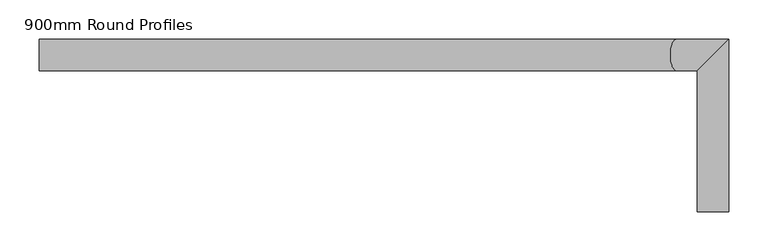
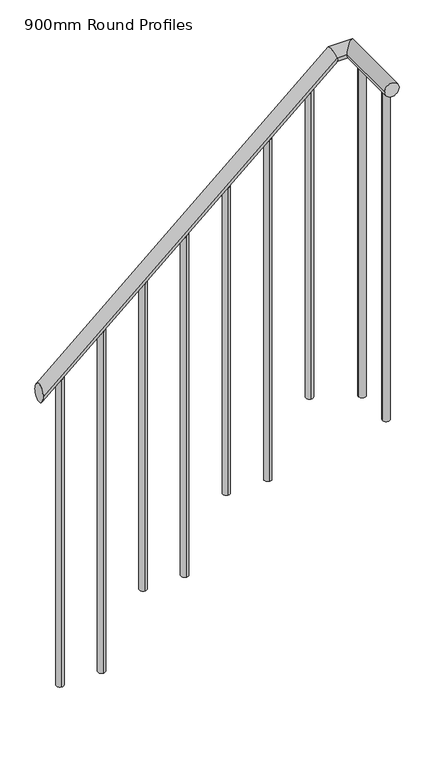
"""IFC4 building model written with IfcOpenShell, lengths in millimetres: railing geometry, 900mm Round Profiles."""

from ifc_helpers import new_model, si_unit, point, frame, frame_2d, origin, origin_with_axes, place, context, project, spatial, circle_curve, ellipse_curve, trimmed, segment, composite_curve, outline, extrude, source, transform, mapped, element, save
from ifc_brep_helpers import plane_surface, cylinder_surface, advanced_brep


def railing_900mm_round_profiles_c0c307c5(model_context):
    return source(origin(), model_context, "Body", "SolidModel", [
        advanced_brep(
        [(7110.0, 5520.0, 273.4960858), (7110.0, 5480.0, 273.4960858), (7922.4795013, 5520.0, 980.0), (7922.4795013, 5480.0, 980.0), (7990.0, 5300.0, 980.0), (7950.0, 5300.0, 980.0), (7950.0, 5480.0, 980.0), (7990.0, 5520.0, 980.0)],
        [
            (0, 1, ellipse_curve(frame((7110.0, 5500.0, 273.4960858), z_axis=(-1.0, 0.0, 0.0), x_axis=(0.0, 0.0, -1.0)), 26.5039142, 20.0)),
            (1, 0, ellipse_curve(frame((7110.0, 5500.0, 273.4960858), z_axis=(-1.0, 0.0, 0.0), x_axis=(0.0, 0.0, -1.0)), 26.5039142, 20.0)),
            (0, 2),
            (2, 3, ellipse_curve(frame((7922.4795013, 5500.0, 980.0), z_axis=(-0.9366444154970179, 0.0, -0.35028165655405), x_axis=(0.3502816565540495, 0.0, -0.9366444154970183)), 21.3528204, 20.0)),
            (3, 1),
            (3, 2, ellipse_curve(frame((7922.4795013, 5500.0, 980.0), z_axis=(-0.9366444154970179, 0.0, -0.35028165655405), x_axis=(0.3502816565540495, 0.0, -0.9366444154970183)), 21.3528204, 20.0)),
            (4, 5, circle_curve(frame((7970.0, 5300.0, 980.0), z_axis=(0.0, -1.0, 0.0), x_axis=(-1.0, 0.0, 0.0)), 20.0)),
            (5, 4, circle_curve(frame((7970.0, 5300.0, 980.0), z_axis=(0.0, -1.0, 0.0), x_axis=(-1.0, 0.0, 0.0)), 20.0)),
            (6, 7, ellipse_curve(frame((7970.0, 5500.0, 980.0), z_axis=(0.7071067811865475, -0.7071067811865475, 0.0), x_axis=(0.7071067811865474, 0.7071067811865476, 0.0)), 28.2842712, 20.0)),
            (7, 4),
            (5, 6),
            (7, 6, ellipse_curve(frame((7970.0, 5500.0, 980.0), z_axis=(0.7071067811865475, -0.7071067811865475, 0.0), x_axis=(0.7071067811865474, 0.7071067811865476, 0.0)), 28.2842712, 20.0)),
            (2, 7),
            (6, 3),
        ],
        [
            plane_surface(frame((7110.0, 5500.0, 300.0), z_axis=(-1.0, 0.0, 0.0), x_axis=(0.0, 1.0, 0.0))),
            cylinder_surface(frame((7123.1235743, 5500.0, 284.9078896), z_axis=(-0.7546055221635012, 0.0, -0.6561787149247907), x_axis=(0.0, -1.0, 0.0)), 20.0),
            plane_surface(frame((7970.0, 5300.0, 1000.0), z_axis=(0.0, -1.0, 0.0), x_axis=(0.0, 0.0, -1.0))),
            cylinder_surface(frame((7970.0, 5500.0, 980.0), z_axis=(0.0, 1.0, 0.0), x_axis=(-1.0, 0.0, 0.0)), 20.0),
            cylinder_surface(frame((7915.0, 5500.0, 980.0), z_axis=(-1.0, 0.0, 0.0), x_axis=(0.0, -1.0, 0.0)), 20.0),
        ],
        [
            (0, [[1, 2]]),
            (1, [[-1, 3, 4, 5]]),
            (1, [[-2, -5, 6, -3]]),
            (2, [[7, 8]]),
            (3, [[9, 10, -8, 11]]),
            (3, [[12, -11, -7, -10]]),
            (4, [[-4, 13, -9, 14]]),
            (4, [[-6, -14, -12, -13]]),
        ],
    ),
        extrude(outline(composite_curve([segment(trimmed(circle_curve(frame_2d((7970.0, 5327.5)), 10.0), [point((7980.0, 5327.5))], [point((7960.0, 5327.5))], False, "CARTESIAN"), True, "CONTINUOUS"), segment(trimmed(circle_curve(frame_2d((7970.0, 5327.5)), 10.0), [point((7960.0, 5327.5))], [point((7980.0, 5327.5))], False, "CARTESIAN"), True, "CONTINUOUS")], self_intersect=False)), origin_with_axes(), (0.0, 0.0, 1.0), 960.0),
        extrude(outline(composite_curve([segment(trimmed(circle_curve(frame_2d((7970.0, 5442.5)), 10.0), [point((7980.0, 5442.5))], [point((7960.0, 5442.5))], False, "CARTESIAN"), True, "CONTINUOUS"), segment(trimmed(circle_curve(frame_2d((7970.0, 5442.5)), 10.0), [point((7960.0, 5442.5))], [point((7980.0, 5442.5))], False, "CARTESIAN"), True, "CONTINUOUS")], self_intersect=False)), origin_with_axes(), (0.0, 0.0, 1.0), 960.0),
        advanced_brep(
        [(7857.5, 5490.0, 896.9921716), (7857.5, 5490.0, 0.0), (7857.5, 5510.0, 0.0), (7857.5, 5510.0, 896.9921716)],
        [
            (0, 1),
            (1, 2, circle_curve(frame((7857.5, 5500.0, 0.0), z_axis=(0.0, 0.0, 1.0), x_axis=(0.0, 1.0, 0.0)), 10.0)),
            (2, 3),
            (3, 0, ellipse_curve(frame((7857.5, 5500.0, 896.9921716), z_axis=(0.6561787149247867, 0.0, -0.7546055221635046), x_axis=(0.7546055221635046, 0.0, 0.6561787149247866)), 13.2519571, 10.0)),
            (0, 3, ellipse_curve(frame((7857.5, 5500.0, 896.9921716), z_axis=(0.6561787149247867, 0.0, -0.7546055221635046), x_axis=(0.7546055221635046, 0.0, 0.6561787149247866)), 13.2519571, 10.0)),
            (2, 1, circle_curve(frame((7857.5, 5500.0, 0.0), z_axis=(0.0, 0.0, 1.0), x_axis=(0.0, 1.0, 0.0)), 10.0)),
        ],
        [
            cylinder_surface(frame((7857.5, 5500.0, -100.0), z_axis=(0.0, 0.0, 1.0), x_axis=(0.0, 1.0, 0.0)), 10.0),
            plane_surface(frame((7877.5, 5520.0, 914.383476), z_axis=(-0.6561787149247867, 0.0, 0.7546055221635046), x_axis=(0.0, -1.0, 0.0))),
            plane_surface(frame((7837.5, 5520.0, 0.0), z_axis=(0.0, 0.0, -1.0), x_axis=(0.0, -1.0, 0.0))),
        ],
        [
            (0, [[1, 2, 3, 4]]),
            (0, [[-1, 5, -3, 6]]),
            (1, [[-4, -5]]),
            (2, [[-2, -6]]),
        ],
    ),
        advanced_brep(
        [(7742.5, 5490.0, 796.9921716), (7742.5, 5490.0, -200.0), (7742.5, 5510.0, -200.0), (7742.5, 5510.0, 796.9921716)],
        [
            (0, 1),
            (1, 2, circle_curve(frame((7742.5, 5500.0, -200.0), z_axis=(0.0, 0.0, 1.0), x_axis=(0.0, 1.0, 0.0)), 10.0)),
            (2, 3),
            (3, 0, ellipse_curve(frame((7742.5, 5500.0, 796.9921716), z_axis=(0.6561787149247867, 0.0, -0.7546055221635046), x_axis=(0.7546055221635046, 0.0, 0.6561787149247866)), 13.2519571, 10.0)),
            (0, 3, ellipse_curve(frame((7742.5, 5500.0, 796.9921716), z_axis=(0.6561787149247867, 0.0, -0.7546055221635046), x_axis=(0.7546055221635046, 0.0, 0.6561787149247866)), 13.2519571, 10.0)),
            (2, 1, circle_curve(frame((7742.5, 5500.0, -200.0), z_axis=(0.0, 0.0, 1.0), x_axis=(0.0, 1.0, 0.0)), 10.0)),
        ],
        [
            cylinder_surface(frame((7742.5, 5500.0, -300.0), z_axis=(0.0, 0.0, 1.0), x_axis=(0.0, 1.0, 0.0)), 10.0),
            plane_surface(frame((7762.5, 5520.0, 814.383476), z_axis=(-0.6561787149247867, 0.0, 0.7546055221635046), x_axis=(0.0, -1.0, 0.0))),
            plane_surface(frame((7722.5, 5520.0, -200.0), z_axis=(0.0, 0.0, -1.0), x_axis=(0.0, -1.0, 0.0))),
        ],
        [
            (0, [[1, 2, 3, 4]]),
            (0, [[-1, 5, -3, 6]]),
            (1, [[-4, -5]]),
            (2, [[-2, -6]]),
        ],
    ),
        advanced_brep(
        [(7627.5, 5490.0, 696.9921716), (7627.5, 5490.0, -200.0), (7627.5, 5510.0, -200.0), (7627.5, 5510.0, 696.9921716)],
        [
            (0, 1),
            (1, 2, circle_curve(frame((7627.5, 5500.0, -200.0), z_axis=(0.0, 0.0, 1.0), x_axis=(0.0, 1.0, 0.0)), 10.0)),
            (2, 3),
            (3, 0, ellipse_curve(frame((7627.5, 5500.0, 696.9921716), z_axis=(0.6561787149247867, 0.0, -0.7546055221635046), x_axis=(0.7546055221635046, 0.0, 0.6561787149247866)), 13.2519571, 10.0)),
            (0, 3, ellipse_curve(frame((7627.5, 5500.0, 696.9921716), z_axis=(0.6561787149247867, 0.0, -0.7546055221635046), x_axis=(0.7546055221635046, 0.0, 0.6561787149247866)), 13.2519571, 10.0)),
            (2, 1, circle_curve(frame((7627.5, 5500.0, -200.0), z_axis=(0.0, 0.0, 1.0), x_axis=(0.0, 1.0, 0.0)), 10.0)),
        ],
        [
            cylinder_surface(frame((7627.5, 5500.0, -300.0), z_axis=(0.0, 0.0, 1.0), x_axis=(0.0, 1.0, 0.0)), 10.0),
            plane_surface(frame((7647.5, 5520.0, 714.383476), z_axis=(-0.6561787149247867, 0.0, 0.7546055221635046), x_axis=(0.0, -1.0, 0.0))),
            plane_surface(frame((7607.5, 5520.0, -200.0), z_axis=(0.0, 0.0, -1.0), x_axis=(0.0, -1.0, 0.0))),
        ],
        [
            (0, [[1, 2, 3, 4]]),
            (0, [[-1, 5, -3, 6]]),
            (1, [[-4, -5]]),
            (2, [[-2, -6]]),
        ],
    ),
        advanced_brep(
        [(7512.5, 5490.0, 596.9921716), (7512.5, 5490.0, -400.0), (7512.5, 5510.0, -400.0), (7512.5, 5510.0, 596.9921716)],
        [
            (0, 1),
            (1, 2, circle_curve(frame((7512.5, 5500.0, -400.0), z_axis=(0.0, 0.0, 1.0), x_axis=(0.0, 1.0, 0.0)), 10.0)),
            (2, 3),
            (3, 0, ellipse_curve(frame((7512.5, 5500.0, 596.9921716), z_axis=(0.6561787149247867, 0.0, -0.7546055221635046), x_axis=(0.7546055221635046, 0.0, 0.6561787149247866)), 13.2519571, 10.0)),
            (0, 3, ellipse_curve(frame((7512.5, 5500.0, 596.9921716), z_axis=(0.6561787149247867, 0.0, -0.7546055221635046), x_axis=(0.7546055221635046, 0.0, 0.6561787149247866)), 13.2519571, 10.0)),
            (2, 1, circle_curve(frame((7512.5, 5500.0, -400.0), z_axis=(0.0, 0.0, 1.0), x_axis=(0.0, 1.0, 0.0)), 10.0)),
        ],
        [
            cylinder_surface(frame((7512.5, 5500.0, -500.0), z_axis=(0.0, 0.0, 1.0), x_axis=(0.0, 1.0, 0.0)), 10.0),
            plane_surface(frame((7532.5, 5520.0, 614.383476), z_axis=(-0.6561787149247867, 0.0, 0.7546055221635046), x_axis=(0.0, -1.0, 0.0))),
            plane_surface(frame((7492.5, 5520.0, -400.0), z_axis=(0.0, 0.0, -1.0), x_axis=(0.0, -1.0, 0.0))),
        ],
        [
            (0, [[1, 2, 3, 4]]),
            (0, [[-1, 5, -3, 6]]),
            (1, [[-4, -5]]),
            (2, [[-2, -6]]),
        ],
    ),
        advanced_brep(
        [(7397.5, 5490.0, 496.9921716), (7397.5, 5490.0, -400.0), (7397.5, 5510.0, -400.0), (7397.5, 5510.0, 496.9921716)],
        [
            (0, 1),
            (1, 2, circle_curve(frame((7397.5, 5500.0, -400.0), z_axis=(0.0, 0.0, 1.0), x_axis=(0.0, 1.0, 0.0)), 10.0)),
            (2, 3),
            (3, 0, ellipse_curve(frame((7397.5, 5500.0, 496.9921716), z_axis=(0.6561787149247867, 0.0, -0.7546055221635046), x_axis=(0.7546055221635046, 0.0, 0.6561787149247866)), 13.2519571, 10.0)),
            (0, 3, ellipse_curve(frame((7397.5, 5500.0, 496.9921716), z_axis=(0.6561787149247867, 0.0, -0.7546055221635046), x_axis=(0.7546055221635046, 0.0, 0.6561787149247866)), 13.2519571, 10.0)),
            (2, 1, circle_curve(frame((7397.5, 5500.0, -400.0), z_axis=(0.0, 0.0, 1.0), x_axis=(0.0, 1.0, 0.0)), 10.0)),
        ],
        [
            cylinder_surface(frame((7397.5, 5500.0, -500.0), z_axis=(0.0, 0.0, 1.0), x_axis=(0.0, 1.0, 0.0)), 10.0),
            plane_surface(frame((7417.5, 5520.0, 514.383476), z_axis=(-0.6561787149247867, 0.0, 0.7546055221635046), x_axis=(0.0, -1.0, 0.0))),
            plane_surface(frame((7377.5, 5520.0, -400.0), z_axis=(0.0, 0.0, -1.0), x_axis=(0.0, -1.0, 0.0))),
        ],
        [
            (0, [[1, 2, 3, 4]]),
            (0, [[-1, 5, -3, 6]]),
            (1, [[-4, -5]]),
            (2, [[-2, -6]]),
        ],
    ),
        advanced_brep(
        [(7282.5, 5490.0, 396.9921716), (7282.5, 5490.0, -600.0), (7282.5, 5510.0, -600.0), (7282.5, 5510.0, 396.9921716)],
        [
            (0, 1),
            (1, 2, circle_curve(frame((7282.5, 5500.0, -600.0), z_axis=(0.0, 0.0, 1.0), x_axis=(0.0, 1.0, 0.0)), 10.0)),
            (2, 3),
            (3, 0, ellipse_curve(frame((7282.5, 5500.0, 396.9921716), z_axis=(0.6561787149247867, 0.0, -0.7546055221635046), x_axis=(0.7546055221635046, 0.0, 0.6561787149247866)), 13.2519571, 10.0)),
            (0, 3, ellipse_curve(frame((7282.5, 5500.0, 396.9921716), z_axis=(0.6561787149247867, 0.0, -0.7546055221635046), x_axis=(0.7546055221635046, 0.0, 0.6561787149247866)), 13.2519571, 10.0)),
            (2, 1, circle_curve(frame((7282.5, 5500.0, -600.0), z_axis=(0.0, 0.0, 1.0), x_axis=(0.0, 1.0, 0.0)), 10.0)),
        ],
        [
            cylinder_surface(frame((7282.5, 5500.0, -700.0), z_axis=(0.0, 0.0, 1.0), x_axis=(0.0, 1.0, 0.0)), 10.0),
            plane_surface(frame((7302.5, 5520.0, 414.383476), z_axis=(-0.6561787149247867, 0.0, 0.7546055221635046), x_axis=(0.0, -1.0, 0.0))),
            plane_surface(frame((7262.5, 5520.0, -600.0), z_axis=(0.0, 0.0, -1.0), x_axis=(0.0, -1.0, 0.0))),
        ],
        [
            (0, [[1, 2, 3, 4]]),
            (0, [[-1, 5, -3, 6]]),
            (1, [[-4, -5]]),
            (2, [[-2, -6]]),
        ],
    ),
        advanced_brep(
        [(7167.5, 5490.0, 296.9921716), (7167.5, 5490.0, -600.0), (7167.5, 5510.0, -600.0), (7167.5, 5510.0, 296.9921716)],
        [
            (0, 1),
            (1, 2, circle_curve(frame((7167.5, 5500.0, -600.0), z_axis=(0.0, 0.0, 1.0), x_axis=(0.0, 1.0, 0.0)), 10.0)),
            (2, 3),
            (3, 0, ellipse_curve(frame((7167.5, 5500.0, 296.9921716), z_axis=(0.6561787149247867, 0.0, -0.7546055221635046), x_axis=(0.7546055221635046, 0.0, 0.6561787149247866)), 13.2519571, 10.0)),
            (0, 3, ellipse_curve(frame((7167.5, 5500.0, 296.9921716), z_axis=(0.6561787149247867, 0.0, -0.7546055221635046), x_axis=(0.7546055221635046, 0.0, 0.6561787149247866)), 13.2519571, 10.0)),
            (2, 1, circle_curve(frame((7167.5, 5500.0, -600.0), z_axis=(0.0, 0.0, 1.0), x_axis=(0.0, 1.0, 0.0)), 10.0)),
        ],
        [
            cylinder_surface(frame((7167.5, 5500.0, -700.0), z_axis=(0.0, 0.0, 1.0), x_axis=(0.0, 1.0, 0.0)), 10.0),
            plane_surface(frame((7187.5, 5520.0, 314.383476), z_axis=(-0.6561787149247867, 0.0, 0.7546055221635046), x_axis=(0.0, -1.0, 0.0))),
            plane_surface(frame((7147.5, 5520.0, -600.0), z_axis=(0.0, 0.0, -1.0), x_axis=(0.0, -1.0, 0.0))),
        ],
        [
            (0, [[1, 2, 3, 4]]),
            (0, [[-1, 5, -3, 6]]),
            (1, [[-4, -5]]),
            (2, [[-2, -6]]),
        ],
    ),
    ])


if __name__ == "__main__":
    model = new_model("IFC4")
    model_context = context("Model", 3, world=origin())
    ifc_project = project(units=[si_unit("LENGTHUNIT", "METRE", prefix="MILLI")], contexts=[model_context])
    site = spatial("IfcSite", under=ifc_project)
    building = spatial("IfcBuilding", under=site)
    placement = place(None, origin())
    railing_900mm_round_profiles_shape = railing_900mm_round_profiles_c0c307c5(model_context)
    element("IfcRailing", 1, ObjectType="900mm Round Profiles", at=placement, inside=building, context=model_context, shape_type="MappedRepresentation", body=[
        mapped(railing_900mm_round_profiles_shape, transform((0.0, 0.0, 0.0), x_axis=(1.0, 0.0, 0.0), y_axis=(0.0, 1.0, 0.0), z_axis=(0.0, 0.0, 1.0))),
    ])
    save(model, "model.ifc")
